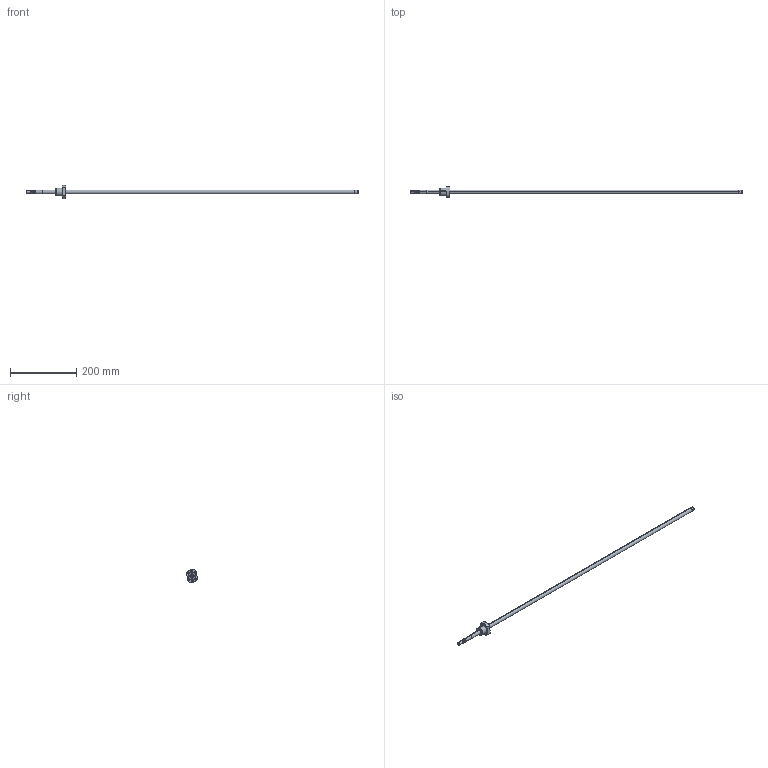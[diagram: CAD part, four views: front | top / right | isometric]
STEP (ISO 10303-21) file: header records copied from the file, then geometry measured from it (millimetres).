
FILE_DESCRIPTION (( 'STEP AP214' ), '1' );
FILE_NAME ('7.3005 STSR1205-DFC7-1000-P0-0.05.STEP', '2026-03-03T12:30:36', ( '' ), ( '' ), 'SwSTEP 2.0', 'SolidWorks 2025', '' );
FILE_SCHEMA (( 'AUTOMOTIVE_DESIGN' ));
Length unit declared in the file: millimetre
Products named in the file (3): 7.3005 STSR1205-DFC7-1000-P0-0.05; 7.3102 Kuularuuvimutteri STSR1205B1D; 7.3030 TSR1205-FC7-1000
Assembly tree (2 placements, depth 2):
  7.3005 STSR1205-DFC7-1000-P0-0.05
    7.3030 TSR1205-FC7-1000
    7.3102 Kuularuuvimutteri STSR1205B1D
Bounding box: 1000 x 32.65 x 39.92 mm (x, y, z)
Volume: 122121.3 mm3; surface area: 44765.6 mm2
Topology: 3 solids, 3 shells, 151 faces, 372 edges, 243 vertices
Faces by surface type: cylinder 74, plane 37, bspline 29, cone 11
Entity records: 12804 total; most frequent: CARTESIAN_POINT 9389, ORIENTED_EDGE 744, DIRECTION 590, EDGE_CURVE 372, VERTEX_POINT 243, AXIS2_PLACEMENT_3D 226, EDGE_LOOP 183, FACE_OUTER_BOUND 151
